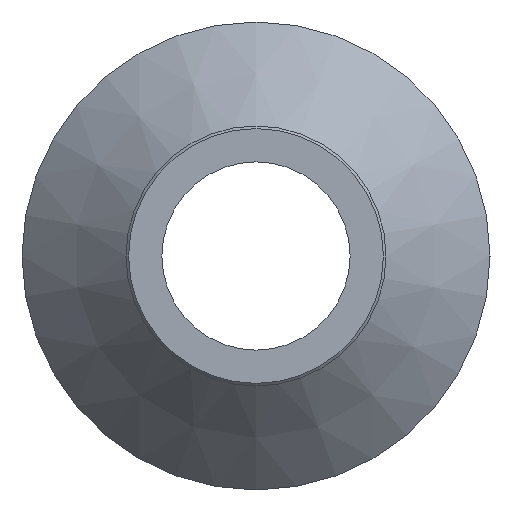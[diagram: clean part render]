
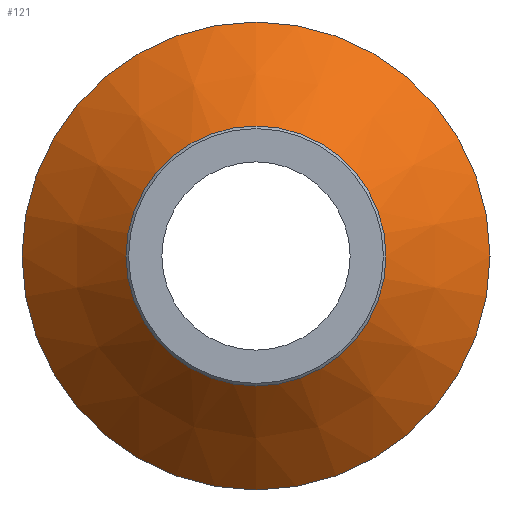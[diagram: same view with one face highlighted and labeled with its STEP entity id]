
A CAD part, left-side view. The second image highlights one B-rep face of the part: STEP entity #121.
In plain terms, the highlighted conical face has half-angle 45 degrees and reference radius 45 mm.
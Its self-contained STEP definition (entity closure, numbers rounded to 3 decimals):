
#22=CONICAL_SURFACE('',#146,45.,0.785);
#28=ORIENTED_EDGE('',*,*,#48,.F.);
#29=ORIENTED_EDGE('',*,*,#47,.T.);
#47=EDGE_CURVE('',#57,#57,#67,.T.);
#48=EDGE_CURVE('',#58,#58,#68,.T.);
#57=VERTEX_POINT('',#210);
#58=VERTEX_POINT('',#213);
#67=CIRCLE('',#145,45.);
#68=CIRCLE('',#147,25.);
#78=EDGE_LOOP('',(#28));
#79=EDGE_LOOP('',(#29));
#98=FACE_BOUND('',#78,.T.);
#99=FACE_BOUND('',#79,.T.);
#121=ADVANCED_FACE('',(#98,#99),#22,.T.);
#145=AXIS2_PLACEMENT_3D('',#209,#169,#170);
#146=AXIS2_PLACEMENT_3D('',#211,#171,#172);
#147=AXIS2_PLACEMENT_3D('',#212,#173,#174);
#169=DIRECTION('',(-1.,0.,0.));
#170=DIRECTION('',(0.,0.,1.));
#171=DIRECTION('',(1.,0.,0.));
#172=DIRECTION('',(0.,0.,-1.));
#173=DIRECTION('',(-1.,0.,0.));
#174=DIRECTION('',(0.,0.,1.));
#209=CARTESIAN_POINT('',(10.,0.,0.));
#210=CARTESIAN_POINT('',(10.,0.,45.));
#211=CARTESIAN_POINT('',(10.,0.,0.));
#212=CARTESIAN_POINT('',(-10.,0.,0.));
#213=CARTESIAN_POINT('',(-10.,0.,25.));
